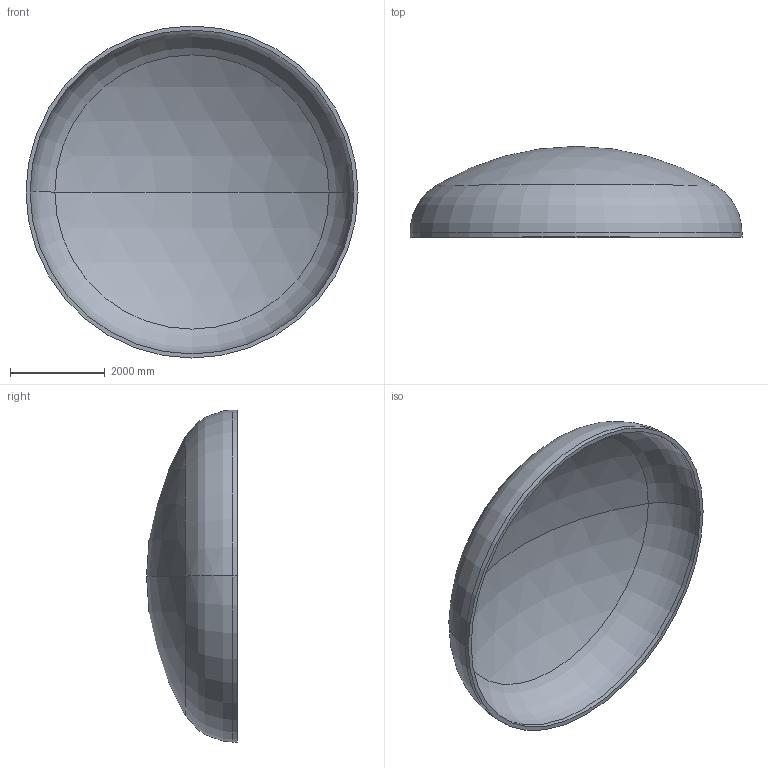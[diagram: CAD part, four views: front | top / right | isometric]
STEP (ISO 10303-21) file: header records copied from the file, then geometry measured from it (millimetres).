
FILE_DESCRIPTION (( 'STEP AP203' ), '1' );
FILE_NAME ('DIN 28013 Korbbogenform_-_Boden DIN 28013 - 7000 x 100 - I - s=86.step', '2016-07-04T10:49:27', ( '' ), ( '' ), 'SwSTEP 2.0', 'SolidWorks 2013', '' );
FILE_SCHEMA (( 'CONFIG_CONTROL_DESIGN' ));
Length unit declared in the file: millimetre
Products named in the file (1): DIN 28013 Korbbogenform_-_Boden DIN 28013 - 7000 x 100 - I - s=86
Bounding box: 7000 x 1915.23 x 7000 mm (x, y, z)
Volume: 4698436831.3 mm3; surface area: 111149424.7 mm2
Topology: 1 solids, 1 shells, 13 faces, 24 edges, 14 vertices
Faces by surface type: torus 4, cylinder 4, sphere 4, plane 1
Entity records: 407 total; most frequent: DIRECTION 72, CARTESIAN_POINT 52, ORIENTED_EDGE 48, AXIS2_PLACEMENT_3D 34, EDGE_CURVE 24, CIRCLE 20, VERTEX_POINT 14, EDGE_LOOP 14
